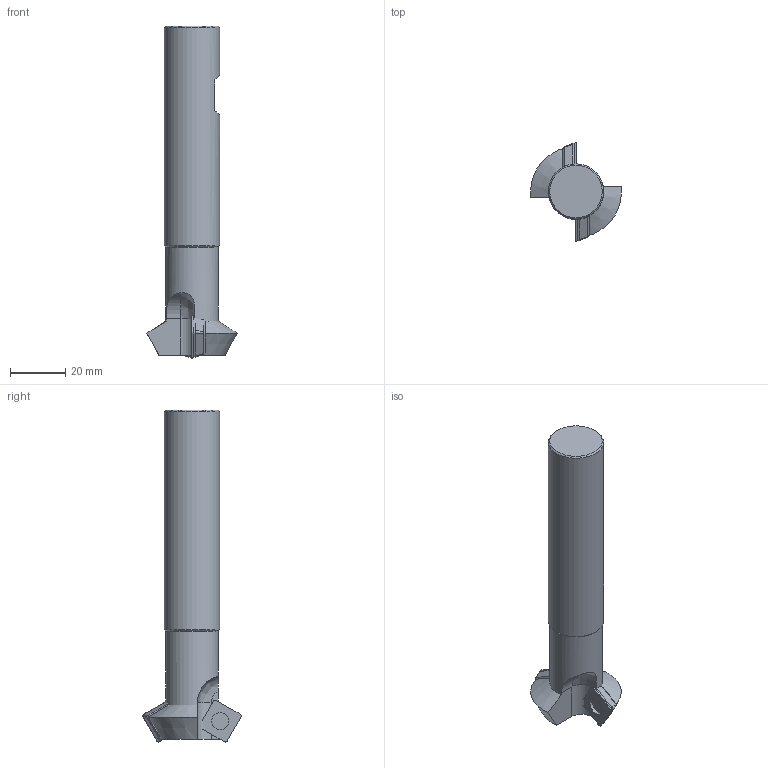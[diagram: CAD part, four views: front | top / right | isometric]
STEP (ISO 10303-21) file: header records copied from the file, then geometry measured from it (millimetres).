
FILE_DESCRIPTION(/* description */ (''),/* implementation_level */ '2;1');
FILE_NAME(/* name */ 'CE30-1125R-S20-HAAS.stp',/* time_stamp */ '2021-09-24T12:12:41+09:00',/* author */ (''),/* organization */ (''),/* preprocessor_version */ 'ST-DEVELOPER v11',/* originating_system */ 'SIEMENS UGS NX 6.0',/* authorisation */ '');
FILE_SCHEMA (('CONFIG_CONTROL_DESIGN'));
Length unit declared in the file: millimetre
Products named in the file (1): user1A84wu77
Bounding box: 32.77 x 35.58 x 120 mm (x, y, z)
Volume: 36671.3 mm3; surface area: 9502.5 mm2
Topology: 3 solids, 3 shells, 93 faces, 206 edges, 120 vertices
Faces by surface type: plane 45, bspline 26, cone 14, cylinder 8
Full cylindrical faces by diameter (mm): 6.2 x2, 19 x1, 20 x1
Entity records: 2784 total; most frequent: CARTESIAN_POINT 882, ORIENTED_EDGE 396, DIRECTION 336, EDGE_CURVE 198, VERTEX_POINT 118, AXIS2_PLACEMENT_3D 116, LINE 104, VECTOR 104
